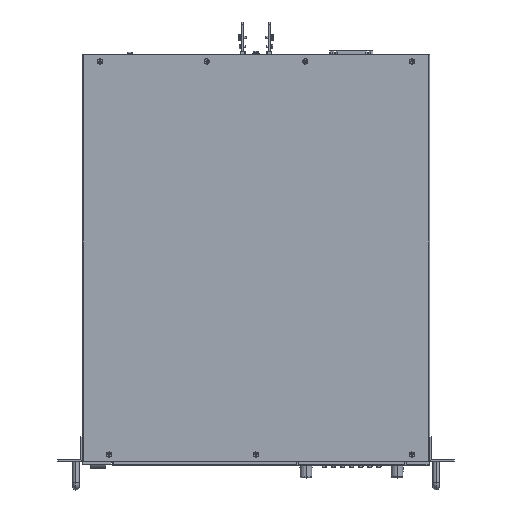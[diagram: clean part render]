
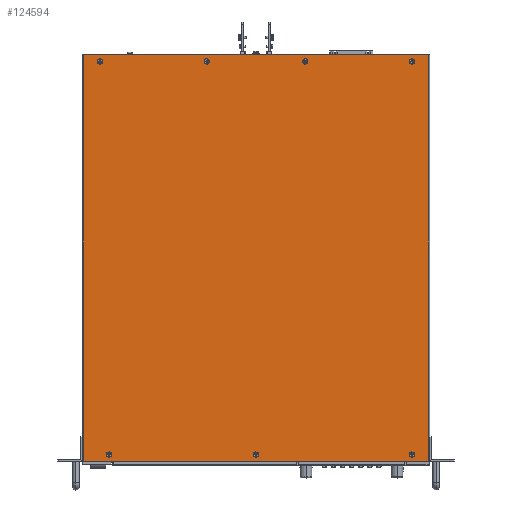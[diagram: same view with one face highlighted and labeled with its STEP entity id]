
A CAD part, top view. The second image highlights one B-rep face of the part: STEP entity #124594.
In plain terms, the highlighted planar face has unit normal (0, 0, 1).
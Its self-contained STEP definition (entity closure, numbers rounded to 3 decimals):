
#2452=DIRECTION('',(0.,-1.,0.));
#2453=VECTOR('',#2452,495.);
#2454=CARTESIAN_POINT('',(-210.4,493.8,43.));
#2455=LINE('',#2454,#2453);
#18380=DIRECTION('',(0.,1.,0.));
#18381=VECTOR('',#18380,495.);
#18382=CARTESIAN_POINT('',(210.4,-1.2,43.));
#18383=LINE('',#18382,#18381);
#18392=CARTESIAN_POINT('',(190.,485.8,43.));
#18393=DIRECTION('',(0.,0.,1.));
#18394=DIRECTION('',(-1.,0.,0.));
#18395=AXIS2_PLACEMENT_3D('',#18392,#18393,#18394);
#18397=CARTESIAN_POINT('',(190.,485.8,43.));
#18398=DIRECTION('',(0.,0.,1.));
#18399=DIRECTION('',(1.,0.,0.));
#18400=AXIS2_PLACEMENT_3D('',#18397,#18398,#18399);
#18402=CARTESIAN_POINT('',(-179.,6.8,43.));
#18403=DIRECTION('',(0.,0.,1.));
#18404=DIRECTION('',(-1.,0.,0.));
#18405=AXIS2_PLACEMENT_3D('',#18402,#18403,#18404);
#18407=CARTESIAN_POINT('',(-179.,6.8,43.));
#18408=DIRECTION('',(0.,0.,1.));
#18409=DIRECTION('',(1.,0.,0.));
#18410=AXIS2_PLACEMENT_3D('',#18407,#18408,#18409);
#18412=CARTESIAN_POINT('',(190.,6.8,43.));
#18413=DIRECTION('',(0.,0.,1.));
#18414=DIRECTION('',(-1.,0.,0.));
#18415=AXIS2_PLACEMENT_3D('',#18412,#18413,#18414);
#18417=CARTESIAN_POINT('',(190.,6.8,43.));
#18418=DIRECTION('',(0.,0.,1.));
#18419=DIRECTION('',(1.,0.,0.));
#18420=AXIS2_PLACEMENT_3D('',#18417,#18418,#18419);
#18422=CARTESIAN_POINT('',(0.,6.8,43.));
#18423=DIRECTION('',(0.,0.,1.));
#18424=DIRECTION('',(-1.,0.,0.));
#18425=AXIS2_PLACEMENT_3D('',#18422,#18423,#18424);
#18427=CARTESIAN_POINT('',(0.,6.8,43.));
#18428=DIRECTION('',(0.,0.,1.));
#18429=DIRECTION('',(1.,0.,0.));
#18430=AXIS2_PLACEMENT_3D('',#18427,#18428,#18429);
#18432=CARTESIAN_POINT('',(-60.,485.8,43.));
#18433=DIRECTION('',(0.,0.,1.));
#18434=DIRECTION('',(-1.,0.,0.));
#18435=AXIS2_PLACEMENT_3D('',#18432,#18433,#18434);
#18437=CARTESIAN_POINT('',(-60.,485.8,43.));
#18438=DIRECTION('',(0.,0.,1.));
#18439=DIRECTION('',(1.,0.,0.));
#18440=AXIS2_PLACEMENT_3D('',#18437,#18438,#18439);
#18442=CARTESIAN_POINT('',(60.,485.8,43.));
#18443=DIRECTION('',(0.,0.,1.));
#18444=DIRECTION('',(-1.,0.,0.));
#18445=AXIS2_PLACEMENT_3D('',#18442,#18443,#18444);
#18447=CARTESIAN_POINT('',(60.,485.8,43.));
#18448=DIRECTION('',(0.,0.,1.));
#18449=DIRECTION('',(1.,0.,0.));
#18450=AXIS2_PLACEMENT_3D('',#18447,#18448,#18449);
#18452=CARTESIAN_POINT('',(-190.,485.8,43.));
#18453=DIRECTION('',(0.,0.,1.));
#18454=DIRECTION('',(-1.,0.,0.));
#18455=AXIS2_PLACEMENT_3D('',#18452,#18453,#18454);
#18457=CARTESIAN_POINT('',(-190.,485.8,43.));
#18458=DIRECTION('',(0.,0.,1.));
#18459=DIRECTION('',(1.,0.,0.));
#18460=AXIS2_PLACEMENT_3D('',#18457,#18458,#18459);
#18462=DIRECTION('',(1.,0.,0.));
#18463=VECTOR('',#18462,420.8);
#18464=CARTESIAN_POINT('',(-210.4,-1.2,43.));
#18465=LINE('',#18464,#18463);
#19811=DIRECTION('',(-1.,0.,0.));
#19812=VECTOR('',#19811,420.8);
#19813=CARTESIAN_POINT('',(210.4,493.8,43.));
#19814=LINE('',#19813,#19812);
#81785=CARTESIAN_POINT('',(186.75,485.8,43.));
#81786=CARTESIAN_POINT('',(193.25,485.8,43.));
#81787=VERTEX_POINT('',#81785);
#81788=VERTEX_POINT('',#81786);
#81789=CARTESIAN_POINT('',(-182.25,6.8,43.));
#81790=CARTESIAN_POINT('',(-175.75,6.8,43.));
#81791=VERTEX_POINT('',#81789);
#81792=VERTEX_POINT('',#81790);
#81793=CARTESIAN_POINT('',(186.75,6.8,43.));
#81794=CARTESIAN_POINT('',(193.25,6.8,43.));
#81795=VERTEX_POINT('',#81793);
#81796=VERTEX_POINT('',#81794);
#81797=CARTESIAN_POINT('',(-3.25,6.8,43.));
#81798=CARTESIAN_POINT('',(3.25,6.8,43.));
#81799=VERTEX_POINT('',#81797);
#81800=VERTEX_POINT('',#81798);
#81801=CARTESIAN_POINT('',(-63.25,485.8,43.));
#81802=CARTESIAN_POINT('',(-56.75,485.8,43.));
#81803=VERTEX_POINT('',#81801);
#81804=VERTEX_POINT('',#81802);
#81805=CARTESIAN_POINT('',(56.75,485.8,43.));
#81806=CARTESIAN_POINT('',(63.25,485.8,43.));
#81807=VERTEX_POINT('',#81805);
#81808=VERTEX_POINT('',#81806);
#81809=CARTESIAN_POINT('',(-193.25,485.8,43.));
#81810=CARTESIAN_POINT('',(-186.75,485.8,43.));
#81811=VERTEX_POINT('',#81809);
#81812=VERTEX_POINT('',#81810);
#81813=CARTESIAN_POINT('',(210.4,493.8,43.));
#81814=CARTESIAN_POINT('',(-210.4,493.8,43.));
#81815=VERTEX_POINT('',#81813);
#81816=VERTEX_POINT('',#81814);
#100491=CARTESIAN_POINT('',(-210.4,-1.2,43.));
#100492=CARTESIAN_POINT('',(210.4,-1.2,43.));
#100493=VERTEX_POINT('',#100491);
#100494=VERTEX_POINT('',#100492);
#124539=CARTESIAN_POINT('',(0.,246.3,43.));
#124540=DIRECTION('',(0.,0.,1.));
#124541=DIRECTION('',(-1.,0.,0.));
#124542=AXIS2_PLACEMENT_3D('',#124539,#124540,#124541);
#124543=PLANE('',#124542);
#124544=ORIENTED_EDGE('',*,*,#105287,.F.);
#124546=ORIENTED_EDGE('',*,*,#124545,.F.);
#124547=ORIENTED_EDGE('',*,*,#124527,.F.);
#124549=ORIENTED_EDGE('',*,*,#124548,.F.);
#124550=EDGE_LOOP('',(#124544,#124546,#124547,#124549));
#124551=FACE_OUTER_BOUND('',#124550,.F.);
#124553=ORIENTED_EDGE('',*,*,#124552,.T.);
#124555=ORIENTED_EDGE('',*,*,#124554,.T.);
#124556=EDGE_LOOP('',(#124553,#124555));
#124557=FACE_BOUND('',#124556,.F.);
#124559=ORIENTED_EDGE('',*,*,#124558,.T.);
#124561=ORIENTED_EDGE('',*,*,#124560,.T.);
#124562=EDGE_LOOP('',(#124559,#124561));
#124563=FACE_BOUND('',#124562,.F.);
#124565=ORIENTED_EDGE('',*,*,#124564,.T.);
#124567=ORIENTED_EDGE('',*,*,#124566,.T.);
#124568=EDGE_LOOP('',(#124565,#124567));
#124569=FACE_BOUND('',#124568,.F.);
#124571=ORIENTED_EDGE('',*,*,#124570,.T.);
#124573=ORIENTED_EDGE('',*,*,#124572,.T.);
#124574=EDGE_LOOP('',(#124571,#124573));
#124575=FACE_BOUND('',#124574,.F.);
#124577=ORIENTED_EDGE('',*,*,#124576,.T.);
#124579=ORIENTED_EDGE('',*,*,#124578,.T.);
#124580=EDGE_LOOP('',(#124577,#124579));
#124581=FACE_BOUND('',#124580,.F.);
#124583=ORIENTED_EDGE('',*,*,#124582,.T.);
#124585=ORIENTED_EDGE('',*,*,#124584,.T.);
#124586=EDGE_LOOP('',(#124583,#124585));
#124587=FACE_BOUND('',#124586,.F.);
#124589=ORIENTED_EDGE('',*,*,#124588,.T.);
#124591=ORIENTED_EDGE('',*,*,#124590,.T.);
#124592=EDGE_LOOP('',(#124589,#124591));
#124593=FACE_BOUND('',#124592,.F.);
#124594=ADVANCED_FACE('',(#124551,#124557,#124563,#124569,#124575,#124581,
#124587,#124593),#124543,.T.);
#18396=CIRCLE('',#18395,3.25);
#18401=CIRCLE('',#18400,3.25);
#18406=CIRCLE('',#18405,3.25);
#18411=CIRCLE('',#18410,3.25);
#18416=CIRCLE('',#18415,3.25);
#18421=CIRCLE('',#18420,3.25);
#18426=CIRCLE('',#18425,3.25);
#18431=CIRCLE('',#18430,3.25);
#18436=CIRCLE('',#18435,3.25);
#18441=CIRCLE('',#18440,3.25);
#18446=CIRCLE('',#18445,3.25);
#18451=CIRCLE('',#18450,3.25);
#18456=CIRCLE('',#18455,3.25);
#18461=CIRCLE('',#18460,3.25);
#105287=EDGE_CURVE('',#81816,#100493,#2455,.T.);
#124527=EDGE_CURVE('',#100494,#81815,#18383,.T.);
#124545=EDGE_CURVE('',#81815,#81816,#19814,.T.);
#124548=EDGE_CURVE('',#100493,#100494,#18465,.T.);
#124552=EDGE_CURVE('',#81791,#81792,#18406,.T.);
#124554=EDGE_CURVE('',#81792,#81791,#18411,.T.);
#124558=EDGE_CURVE('',#81795,#81796,#18416,.T.);
#124560=EDGE_CURVE('',#81796,#81795,#18421,.T.);
#124564=EDGE_CURVE('',#81799,#81800,#18426,.T.);
#124566=EDGE_CURVE('',#81800,#81799,#18431,.T.);
#124570=EDGE_CURVE('',#81803,#81804,#18436,.T.);
#124572=EDGE_CURVE('',#81804,#81803,#18441,.T.);
#124576=EDGE_CURVE('',#81807,#81808,#18446,.T.);
#124578=EDGE_CURVE('',#81808,#81807,#18451,.T.);
#124582=EDGE_CURVE('',#81811,#81812,#18456,.T.);
#124584=EDGE_CURVE('',#81812,#81811,#18461,.T.);
#124588=EDGE_CURVE('',#81787,#81788,#18396,.T.);
#124590=EDGE_CURVE('',#81788,#81787,#18401,.T.);
